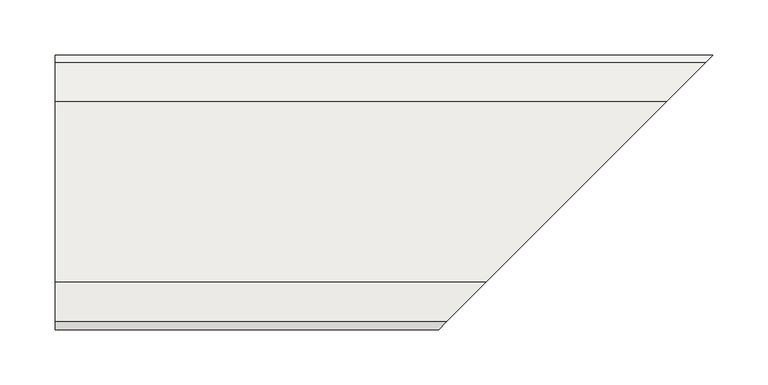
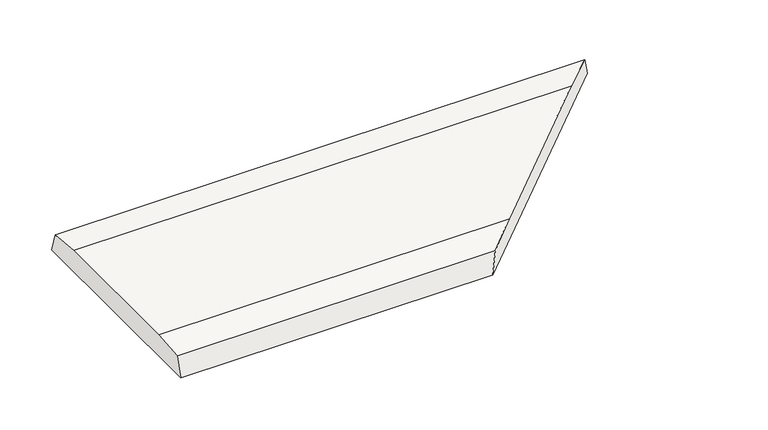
"""IFC4 building model written with IfcOpenShell, lengths in millimetres: slab geometry, ROSA GRES_I25 (corte-inclinación) : Pieza I25_Tresor_Java_Anti-Slip."""

from ifc_helpers import new_model, si_unit, frame, origin, place, context, project, spatial, circle_curve, ellipse_curve, source, transform, mapped, element, save
from ifc_brep_helpers import plane_surface, cylinder_surface, advanced_brep


def slab_039c3274(model_context):
    return source(origin(), model_context, "Body", "AdvancedBrep", [
        advanced_brep(
        [(0.0, 6.8503894, 21.9708993), (0.0, 42.7380732, 25.0413492), (0.0, 206.6448784, 25.0413492), (0.0, 242.0848264, 22.0203494), (0.0, 248.9615625, 0.0), (0.0, 0.0, 0.0), (354.7103894, 6.8503894, 21.9708993), (390.5980732, 42.7380732, 25.0413492), (554.5048784, 206.6448784, 25.0413492), (589.9448264, 242.0848264, 22.0203494), (596.8215625, 248.9615625, 0.0), (347.86, 0.0, 0.0)],
        [
            (0, 1, circle_curve(frame((0.0, 86.2847076, -695.1998883), z_axis=(-1.0, 0.0, 0.0), x_axis=(0.0, 1.0, 0.0)), 721.556477)),
            (1, 2),
            (2, 3, circle_curve(frame((0.0, 163.0982439, -695.1998883), z_axis=(-1.0, 0.0, 0.0), x_axis=(0.0, 1.0, 0.0)), 721.556477)),
            (3, 4),
            (4, 5),
            (5, 0),
            (0, 6),
            (6, 7, ellipse_curve(frame((434.1447076, 86.2847076, -695.1998883), z_axis=(-0.7071067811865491, 0.7071067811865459, 0.0), x_axis=(-0.707106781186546, -0.7071067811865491, 0.0)), 1020.4349559, 721.556477)),
            (7, 1),
            (7, 8),
            (8, 2),
            (8, 9, ellipse_curve(frame((510.9582439, 163.0982439, -695.1998883), z_axis=(-0.7071067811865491, 0.7071067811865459, 0.0), x_axis=(-0.707106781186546, -0.7071067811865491, 0.0)), 1020.4349559, 721.556477)),
            (9, 3),
            (9, 10),
            (10, 4),
            (10, 11),
            (11, 5),
            (11, 6),
        ],
        [
            plane_surface(frame((0.0, 0.5879141, 0.0), z_axis=(-1.0, 0.0, 0.0), x_axis=(0.0, 0.0, 1.0))),
            cylinder_surface(frame((0.0, 86.2847076, -695.1998883), z_axis=(-1.0, 0.0, 0.0), x_axis=(0.0, 1.0, 0.0)), 721.556477),
            plane_surface(frame((0.0, 42.7380732, 25.0413492), z_axis=(0.0, 0.0, 1.0), x_axis=(1.0, 0.0, 0.0))),
            cylinder_surface(frame((0.0, 163.0982439, -695.1998883), z_axis=(-1.0, 0.0, 0.0), x_axis=(0.0, 1.0, 0.0)), 721.556477),
            plane_surface(frame((0.0, 242.0848264, 22.0203494), z_axis=(0.0, 0.9545370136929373, 0.2980924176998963), x_axis=(1.0, 0.0, 0.0))),
            plane_surface(frame((0.0, 248.9615625, 0.0), z_axis=(0.0, 0.0, -1.0), x_axis=(1.0, 0.0, 0.0))),
            plane_surface(frame((0.0, 0.0, 0.0), z_axis=(0.0, -0.9546717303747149, 0.2976606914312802), x_axis=(1.0, 0.0, 0.0))),
            plane_surface(frame((626.0, 278.14, 284.9871832), z_axis=(0.7071067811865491, -0.7071067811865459, 0.0), x_axis=(0.0, 0.0, -1.0))),
        ],
        [
            (0, [[1, 2, 3, 4, 5, 6]]),
            (1, [[-1, 7, 8, 9]]),
            (2, [[-2, -9, 10, 11]]),
            (3, [[-3, -11, 12, 13]]),
            (4, [[-4, -13, 14, 15]]),
            (5, [[-5, -15, 16, 17]]),
            (6, [[-6, -17, 18, -7]]),
            (7, [[-8, -18, -16, -14, -12, -10]]),
        ],
    ),
    ])


if __name__ == "__main__":
    model = new_model("IFC4")
    model_context = context("Model", 3, world=origin())
    ifc_project = project(units=[si_unit("LENGTHUNIT", "METRE", prefix="MILLI")], contexts=[model_context])
    site = spatial("IfcSite", under=ifc_project)
    building = spatial("IfcBuilding", under=site)
    placement = place(None, origin())
    slab_shape = slab_039c3274(model_context)
    element("IfcSlab", 1, ObjectType="ROSA GRES_I25 (corte-inclinación) : Pieza I25_Tresor_Java_Anti-Slip", at=placement, inside=building, context=model_context, shape_type="MappedRepresentation", body=[
        mapped(slab_shape, transform((0.0, 0.0, 0.0), x_axis=(1.0, 0.0, 0.0), y_axis=(0.0, 1.0, 0.0), z_axis=(0.0, 0.0, 1.0))),
    ])
    save(model, "model.ifc")
